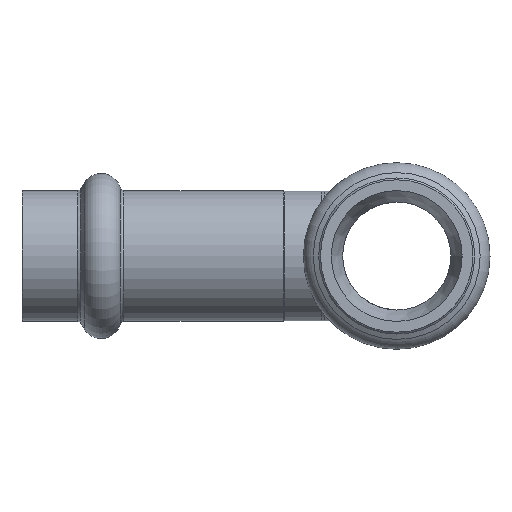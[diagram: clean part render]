
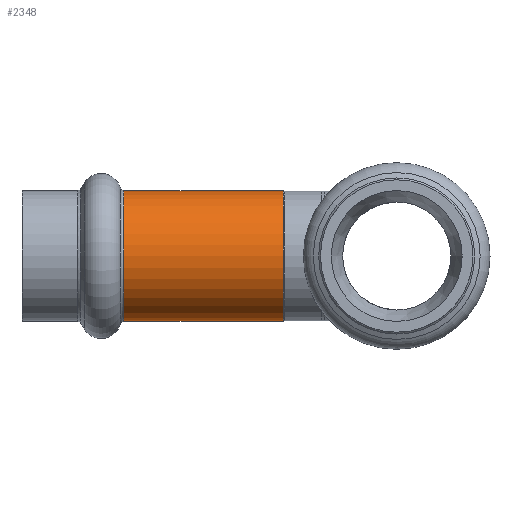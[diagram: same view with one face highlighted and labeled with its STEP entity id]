
A CAD part, left-side view. The second image highlights one B-rep face of the part: STEP entity #2348.
In plain terms, the highlighted cylindrical face has radius 9.075 mm (diameter 18.15 mm), a full revolution.
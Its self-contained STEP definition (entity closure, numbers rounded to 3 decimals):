
#2317=CARTESIAN_POINT('',(-27.87,9.075,0.));
#2318=VERTEX_POINT('',#2317);
#2319=CARTESIAN_POINT('',(-27.87,0.,0.0));
#2320=DIRECTION('',(-1.0,0.0,0.0));
#2321=DIRECTION('',(0.0,-1.0,0.0));
#2322=AXIS2_PLACEMENT_3D('',#2319,#2320,#2321);
#2323=CIRCLE('',#2322,9.075);
#2324=EDGE_CURVE('',#2318,#2318,#2323,.T.);
#2329=CARTESIAN_POINT('',(-17.006,0.,0.0));
#2330=DIRECTION('',(1.0,0.,0.0));
#2331=DIRECTION('',(0.0,1.0,0.0));
#2332=AXIS2_PLACEMENT_3D('',#2329,#2330,#2331);
#2333=CYLINDRICAL_SURFACE('',#2332,9.075);
#2334=CARTESIAN_POINT('',(-5.736,9.075,0.0));
#2335=VERTEX_POINT('',#2334);
#2336=CARTESIAN_POINT('',(-5.736,0.,0.0));
#2337=DIRECTION('',(1.0,0.0,0.0));
#2338=DIRECTION('',(0.0,1.0,0.0));
#2339=AXIS2_PLACEMENT_3D('',#2336,#2337,#2338);
#2340=CIRCLE('',#2339,9.075);
#2341=EDGE_CURVE('',#2335,#2335,#2340,.T.);
#2342=ORIENTED_EDGE('',*,*,#2341,.F.);
#2343=EDGE_LOOP('',(#2342));
#2344=FACE_OUTER_BOUND('',#2343,.T.);
#2345=ORIENTED_EDGE('',*,*,#2324,.F.);
#2346=EDGE_LOOP('',(#2345));
#2347=FACE_BOUND('',#2346,.T.);
#2348=ADVANCED_FACE('',(#2344,#2347),#2333,.T.);
